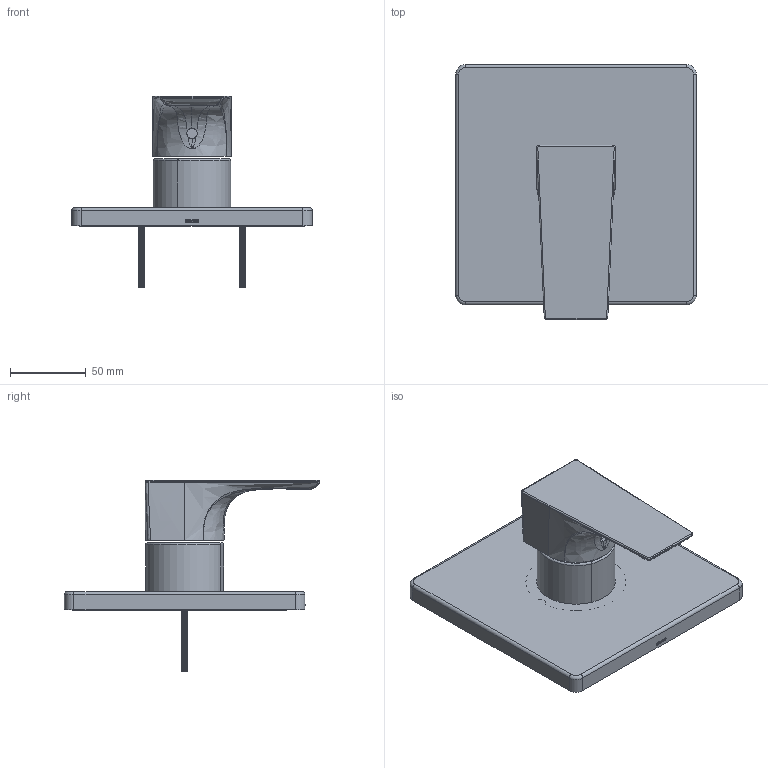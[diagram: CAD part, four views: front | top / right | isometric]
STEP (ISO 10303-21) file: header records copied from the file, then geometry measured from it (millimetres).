
FILE_DESCRIPTION (( 'STEP AP214' ), '1' );
FILE_NAME ('4990TRM.STEP', '2025-01-02T03:08:15', ( '' ), ( '' ), 'SwSTEP 2.0', 'SolidWorks 2023', '' );
FILE_SCHEMA (( 'AUTOMOTIVE_DESIGN' ));
Products named in the file (1): 4990TRM
Bounding box: 158.75 x 168.53 x 126.16 mm (x, y, z)
Surface area: 123695 mm2 (no closed solid volume)
Topology: 0 solids, 112 shells, 1027 faces, 3049 edges, 2062 vertices
Faces by surface type: cylinder 538, cone 232, plane 204, bspline 39, torus 14
Entity records: 64326 total; most frequent: CARTESIAN_POINT 38808, ORIENTED_EDGE 5161, DIRECTION 4824, EDGE_CURVE 3047, VERTEX_POINT 2062, AXIS2_PLACEMENT_3D 1782, LINE 1260, VECTOR 1260
